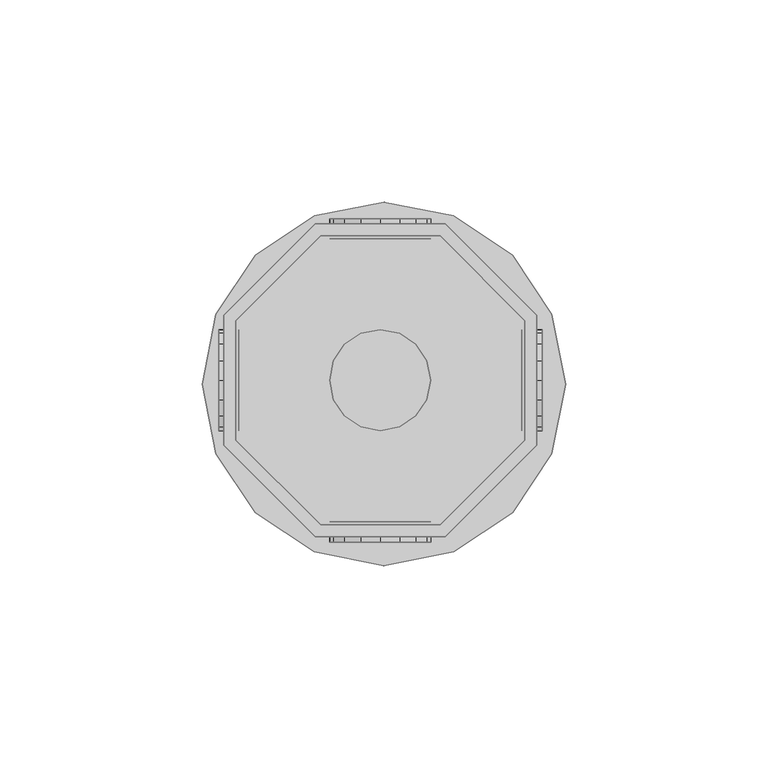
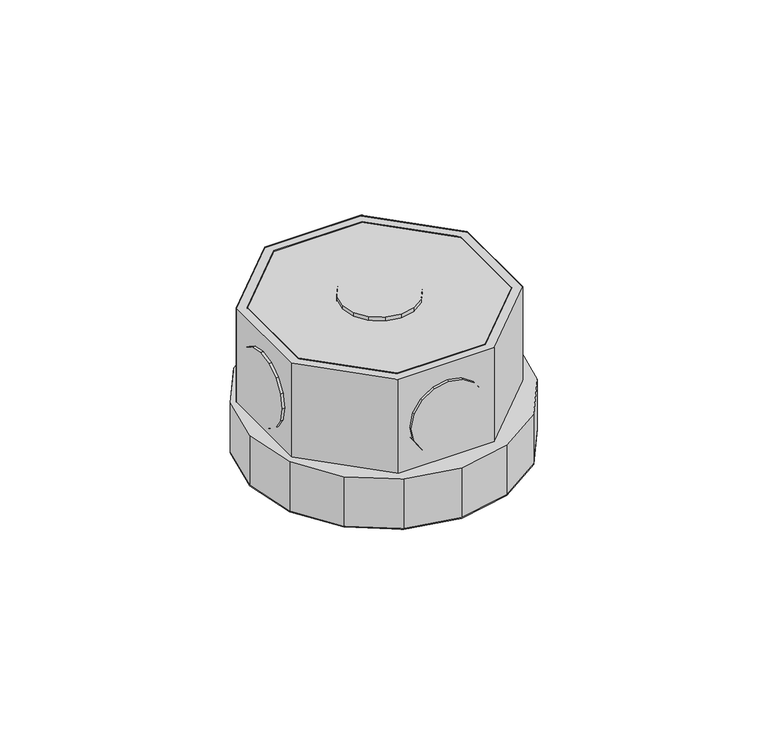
"""IFC4 building model written with IfcOpenShell, lengths in millimetres: light fixture geometry,  213616 :  213616."""

from ifc_helpers import new_model, si_unit, origin, place, context, project, spatial, triangles, source, transform, mapped, element, save


def light_fixture_a6753543(model_context):
    return source(origin(), model_context, "Body", "Tessellation", [
        triangles([(5265.0001419, 17662.9997772, 2924.5999741), (5235.4002045, 17662.9997772, 2975.400071), (5235.4002045, 17662.9997772, 2924.5999741), (5265.0001419, 17662.9997772, 2975.400071), (5266.2000687, 17588.4996735, 2924.5999741), (5234.1002838, 17588.4996735, 2975.400071), (5234.1002838, 17588.4996735, 2924.5999741), (5266.2000687, 17588.4996735, 2975.400071), (5214.3997421, 17641.9998962, 2975.400071), (5214.3997421, 17641.9998962, 2924.5999741), (5288.8998459, 17611.1994507, 2924.5999741), (5288.8998459, 17611.1994507, 2975.400071), (5214.3997421, 17612.4005402, 2975.400071), (5214.3997421, 17612.4005402, 2924.5999741), (5288.8998459, 17643.2998169, 2924.5999741), (5288.8998459, 17643.2998169, 2975.400071), (5235.4002045, 17591.4994904, 2975.400071), (5235.4002045, 17591.4994904, 2924.5999741), (5266.2000687, 17665.9995941, 2924.5999741), (5266.2000687, 17665.9995941, 2975.400071), (5265.0001419, 17591.4994904, 2924.5999741), (5265.0001419, 17591.4994904, 2975.400071), (5234.1002838, 17665.9995941, 2975.400071), (5234.1002838, 17665.9995941, 2924.5999741), (5285.900029, 17612.4005402, 2924.5999741), (5285.900029, 17612.4005402, 2975.400071), (5211.3999252, 17643.2998169, 2975.400071), (5211.3999252, 17643.2998169, 2924.5999741), (5211.3999252, 17611.1994507, 2975.400071), (5285.900029, 17641.9998962, 2975.400071), (5285.900029, 17641.9998962, 2924.5999741), (5211.3999252, 17611.1994507, 2924.5999741), (5214.3997421, 17612.4005402, 2972.3999634), (5235.4002045, 17591.4994904, 2972.3999634), (5265.0001419, 17591.4994904, 2972.3999634), (5285.900029, 17612.4005402, 2972.3999634), (5285.900029, 17641.9998962, 2972.3999634), (5265.0001419, 17662.9997772, 2972.3999634), (5235.4002045, 17662.9997772, 2972.3999634), (5214.3997421, 17641.9998962, 2972.3999634), (5211.3999252, 17643.2998169, 2942.4000504), (5234.1002838, 17665.9995941, 2942.4000504), (5266.2000687, 17665.9995941, 2942.4000504), (5288.8998459, 17643.2998169, 2942.4000504), (5288.8998459, 17611.1994507, 2942.4000504), (5266.2000687, 17588.4996735, 2942.4000504), (5234.1002838, 17588.4996735, 2942.4000504), (5211.3999252, 17611.1994507, 2942.4000504), (5233.7997208, 17584.7998993, 2942.4000504), (5209.5000412, 17609.0995789, 2942.4000504), (5219.2000305, 17594.50047, 2942.4000504), (5206.1002487, 17626.2996918, 2942.4000504), (5209.5000412, 17643.5997986, 2942.4000504), (5219.2000305, 17658.2000702, 2942.4000504), (5233.7997208, 17667.8994781, 2942.4000504), (5251.0998276, 17671.3004333, 2942.4000504), (5268.2999405, 17667.8994781, 2942.4000504), (5292.6002014, 17643.5997986, 2942.4000504), (5282.9002121, 17658.2000702, 2942.4000504), (5251.0998276, 17581.3001129, 2942.4000504), (5268.2999405, 17584.7998993, 2942.4000504), (5282.9002121, 17594.50047, 2942.4000504), (5292.6002014, 17609.0995789, 2942.4000504), (5296.0999878, 17626.2996918, 2942.4000504), (5209.5000412, 17609.0995789, 2924.5999741), (5233.7997208, 17584.7998993, 2924.5999741), (5219.2000305, 17594.50047, 2924.5999741), (5206.1002487, 17626.2996918, 2924.5999741), (5209.5000412, 17643.5997986, 2924.5999741), (5219.2000305, 17658.2000702, 2924.5999741), (5233.7997208, 17667.8994781, 2924.5999741), (5251.0998276, 17671.3004333, 2924.5999741), (5268.2999405, 17667.8994781, 2924.5999741), (5292.6002014, 17643.5997986, 2924.5999741), (5282.9002121, 17658.2000702, 2924.5999741), (5251.0998276, 17581.3001129, 2924.5999741), (5268.2999405, 17584.7998993, 2924.5999741), (5282.9002121, 17594.50047, 2924.5999741), (5292.6002014, 17609.0995789, 2924.5999741), (5296.0999878, 17626.2996918, 2924.5999741), (5238.6000092, 17667.1995209, 2952.6000092), (5245.4001755, 17667.1995209, 2945.9001274), (5241.2998444, 17667.1995209, 2948.5999626), (5237.7000641, 17667.1995209, 2957.4000069), (5250.1998825, 17667.1995209, 2944.8998978), (5238.6000092, 17667.1995209, 2962.2000046), (5255.0001709, 17667.1995209, 2945.9001274), (5241.2998444, 17667.1995209, 2966.2000511), (5258.9999268, 17667.1995209, 2948.5999626), (5245.4001755, 17667.1995209, 2968.8998863), (5261.699762, 17667.1995209, 2952.6000092), (5250.1998825, 17667.1995209, 2969.900116), (5262.7002823, 17667.1995209, 2957.4000069), (5255.0001709, 17667.1995209, 2968.8998863), (5261.699762, 17667.1995209, 2962.2000046), (5258.9999268, 17667.1995209, 2966.2000511), (5245.4001755, 17662.199826, 2945.9001274), (5238.6000092, 17662.199826, 2952.6000092), (5241.2998444, 17662.199826, 2948.5999626), (5250.1998825, 17662.199826, 2944.8998978), (5237.7000641, 17662.199826, 2957.4000069), (5255.0001709, 17662.199826, 2945.9001274), (5238.6000092, 17662.199826, 2962.2000046), (5258.9999268, 17662.199826, 2948.5999626), (5241.2998444, 17662.199826, 2966.2000511), (5245.4001755, 17662.199826, 2968.8998863), (5261.699762, 17662.199826, 2952.6000092), (5250.1998825, 17662.199826, 2969.900116), (5262.7002823, 17662.199826, 2957.4000069), (5255.0001709, 17662.199826, 2968.8998863), (5261.699762, 17662.199826, 2962.2000046), (5258.9999268, 17662.199826, 2966.2000511), (5238.6000092, 17592.1994476, 2952.6000092), (5245.4001755, 17592.1994476, 2945.9001274), (5241.2998444, 17592.1994476, 2948.5999626), (5237.7000641, 17592.1994476, 2957.4000069), (5250.1998825, 17592.1994476, 2944.8998978), (5238.6000092, 17592.1994476, 2962.2000046), (5255.0001709, 17592.1994476, 2945.9001274), (5241.2998444, 17592.1994476, 2966.2000511), (5258.9999268, 17592.1994476, 2948.5999626), (5245.4001755, 17592.1994476, 2968.8998863), (5261.699762, 17592.1994476, 2952.6000092), (5250.1998825, 17592.1994476, 2969.900116), (5262.7002823, 17592.1994476, 2957.4000069), (5255.0001709, 17592.1994476, 2968.8998863), (5261.699762, 17592.1994476, 2962.2000046), (5258.9999268, 17592.1994476, 2966.2000511), (5245.4001755, 17587.1997528, 2945.9001274), (5238.6000092, 17587.1997528, 2952.6000092), (5241.2998444, 17587.1997528, 2948.5999626), (5250.1998825, 17587.1997528, 2944.8998978), (5237.7000641, 17587.1997528, 2957.4000069), (5255.0001709, 17587.1997528, 2945.9001274), (5238.6000092, 17587.1997528, 2962.2000046), (5258.9999268, 17587.1997528, 2948.5999626), (5241.2998444, 17587.1997528, 2966.2000511), (5245.4001755, 17587.1997528, 2968.8998863), (5261.699762, 17587.1997528, 2952.6000092), (5250.1998825, 17587.1997528, 2969.900116), (5262.7002823, 17587.1997528, 2957.4000069), (5255.0001709, 17587.1997528, 2968.8998863), (5261.699762, 17587.1997528, 2962.2000046), (5258.9999268, 17587.1997528, 2966.2000511), (5215.2002747, 17622.3999298, 2945.9001274), (5215.2002747, 17615.7003387, 2952.6000092), (5215.2002747, 17618.400174, 2948.5999626), (5215.2002747, 17627.1996368, 2944.8998978), (5215.2002747, 17614.7003998, 2957.4000069), (5215.2002747, 17632.0005066, 2945.9001274), (5215.2002747, 17615.7003387, 2962.2000046), (5215.2002747, 17636.1002563, 2948.5999626), (5215.2002747, 17618.400174, 2966.2000511), (5215.2002747, 17622.3999298, 2968.8998863), (5215.2002747, 17638.8000916, 2952.6000092), (5215.2002747, 17627.1996368, 2969.900116), (5215.2002747, 17639.7000366, 2957.4000069), (5215.2002747, 17632.0005066, 2968.8998863), (5215.2002747, 17638.8000916, 2962.2000046), (5215.2002747, 17636.1002563, 2966.2000511), (5210.1999985, 17615.7003387, 2952.6000092), (5210.1999985, 17622.3999298, 2945.9001274), (5210.1999985, 17618.400174, 2948.5999626), (5210.1999985, 17614.7003998, 2957.4000069), (5210.1999985, 17627.1996368, 2944.8998978), (5210.1999985, 17615.7003387, 2962.2000046), (5210.1999985, 17632.0005066, 2945.9001274), (5210.1999985, 17618.400174, 2966.2000511), (5210.1999985, 17636.1002563, 2948.5999626), (5210.1999985, 17622.3999298, 2968.8998863), (5210.1999985, 17638.8000916, 2952.6000092), (5210.1999985, 17627.1996368, 2969.900116), (5210.1999985, 17639.7000366, 2957.4000069), (5210.1999985, 17632.0005066, 2968.8998863), (5210.1999985, 17638.8000916, 2962.2000046), (5210.1999985, 17636.1002563, 2966.2000511), (5290.1997665, 17622.3999298, 2945.9001274), (5290.1997665, 17615.7003387, 2952.6000092), (5290.1997665, 17618.400174, 2948.5999626), (5290.1997665, 17627.1996368, 2944.8998978), (5290.1997665, 17614.7003998, 2957.4000069), (5290.1997665, 17632.0005066, 2945.9001274), (5290.1997665, 17615.7003387, 2962.2000046), (5290.1997665, 17636.1002563, 2948.5999626), (5290.1997665, 17618.400174, 2966.2000511), (5290.1997665, 17622.3999298, 2968.8998863), (5290.1997665, 17638.8000916, 2952.6000092), (5290.1997665, 17627.1996368, 2969.900116), (5290.1997665, 17639.7000366, 2957.4000069), (5290.1997665, 17632.0005066, 2968.8998863), (5290.1997665, 17638.8000916, 2962.2000046), (5290.1997665, 17636.1002563, 2966.2000511), (5285.2000717, 17615.7003387, 2952.6000092), (5285.2000717, 17622.3999298, 2945.9001274), (5285.2000717, 17618.400174, 2948.5999626), (5285.2000717, 17614.7003998, 2957.4000069), (5285.2000717, 17627.1996368, 2944.8998978), (5285.2000717, 17615.7003387, 2962.2000046), (5285.2000717, 17632.0005066, 2945.9001274), (5285.2000717, 17618.400174, 2966.2000511), (5285.2000717, 17636.1002563, 2948.5999626), (5285.2000717, 17622.3999298, 2968.8998863), (5285.2000717, 17638.8000916, 2952.6000092), (5285.2000717, 17627.1996368, 2969.900116), (5285.2000717, 17639.7000366, 2957.4000069), (5285.2000717, 17632.0005066, 2968.8998863), (5285.2000717, 17638.8000916, 2962.2000046), (5285.2000717, 17636.1002563, 2966.2000511), (5245.4001755, 17615.7003387, 2976.9999733), (5238.6000092, 17622.3999298, 2976.9999733), (5241.2998444, 17618.400174, 2976.9999733), (5237.7000641, 17627.1996368, 2976.9999733), (5250.1998825, 17614.7003998, 2976.9999733), (5238.6000092, 17632.0005066, 2976.9999733), (5255.0001709, 17615.7003387, 2976.9999733), (5241.2998444, 17636.1002563, 2976.9999733), (5258.9999268, 17618.400174, 2976.9999733), (5245.4001755, 17638.8000916, 2976.9999733), (5261.699762, 17622.3999298, 2976.9999733), (5250.1998825, 17639.7000366, 2976.9999733), (5262.7002823, 17627.1996368, 2976.9999733), (5255.0001709, 17638.8000916, 2976.9999733), (5261.699762, 17632.0005066, 2976.9999733), (5258.9999268, 17636.1002563, 2976.9999733), (5238.6000092, 17622.3999298, 2971.9999878), (5245.4001755, 17615.7003387, 2971.9999878), (5241.2998444, 17618.400174, 2971.9999878), (5237.7000641, 17627.1996368, 2971.9999878), (5250.1998825, 17614.7003998, 2971.9999878), (5238.6000092, 17632.0005066, 2971.9999878), (5255.0001709, 17615.7003387, 2971.9999878), (5241.2998444, 17636.1002563, 2971.9999878), (5258.9999268, 17618.400174, 2971.9999878), (5245.4001755, 17638.8000916, 2971.9999878), (5261.699762, 17622.3999298, 2971.9999878), (5250.1998825, 17639.7000366, 2971.9999878), (5262.7002823, 17627.1996368, 2971.9999878), (5255.0001709, 17638.8000916, 2971.9999878), (5261.699762, 17632.0005066, 2971.9999878), (5258.9999268, 17636.1002563, 2971.9999878)], [[1, 2, 3], [2, 1, 4], [5, 6, 7], [6, 5, 8], [3, 9, 10], [9, 3, 2], [11, 8, 5], [8, 11, 12], [10, 13, 14], [13, 10, 9], [15, 12, 11], [12, 15, 16], [14, 17, 18], [17, 14, 13], [19, 16, 15], [16, 19, 20], [17, 21, 18], [21, 17, 22], [23, 19, 24], [19, 23, 20], [22, 25, 21], [25, 22, 26], [27, 24, 28], [24, 27, 23], [6, 13, 29], [29, 13, 27], [27, 13, 9], [27, 9, 23], [23, 9, 2], [23, 2, 4], [23, 4, 20], [20, 4, 30], [8, 17, 6], [6, 17, 13], [17, 8, 22], [12, 22, 8], [22, 12, 26], [30, 26, 12], [16, 30, 12], [20, 30, 16], [30, 1, 31], [1, 30, 4], [6, 32, 7], [32, 6, 29], [32, 14, 7], [28, 14, 32], [14, 28, 10], [24, 10, 28], [10, 24, 3], [1, 3, 24], [19, 1, 24], [31, 1, 19], [7, 18, 5], [14, 18, 7], [5, 18, 21], [5, 21, 11], [11, 21, 25], [11, 25, 31], [11, 31, 15], [15, 31, 19], [26, 31, 25], [31, 26, 30], [29, 28, 32], [28, 29, 27], [17, 33, 34], [33, 17, 13], [35, 17, 34], [17, 35, 22], [36, 22, 35], [22, 36, 26], [37, 26, 36], [26, 37, 30], [38, 30, 37], [30, 38, 4], [2, 38, 39], [38, 2, 4], [17, 9, 13], [9, 17, 22], [9, 22, 2], [2, 22, 26], [2, 26, 4], [4, 26, 30], [13, 40, 33], [40, 13, 9], [40, 34, 33], [35, 34, 40], [35, 40, 39], [35, 39, 36], [36, 39, 38], [36, 38, 37], [9, 39, 40], [39, 9, 2], [24, 41, 28], [41, 24, 42], [19, 42, 24], [42, 19, 43], [44, 19, 15], [19, 44, 43], [45, 15, 11], [15, 45, 44], [46, 11, 5], [11, 46, 45], [47, 5, 7], [5, 47, 46], [32, 47, 7], [47, 32, 48], [28, 48, 32], [48, 28, 41], [49, 50, 51], [48, 50, 49], [50, 48, 52], [41, 52, 48], [52, 41, 53], [53, 41, 54], [42, 54, 41], [54, 42, 55], [55, 42, 43], [55, 43, 56], [56, 43, 57], [57, 43, 44], [57, 44, 58], [57, 58, 59], [47, 49, 60], [49, 47, 48], [47, 60, 46], [61, 46, 60], [46, 61, 62], [46, 62, 45], [45, 62, 63], [44, 45, 63], [44, 63, 64], [44, 64, 58], [65, 66, 67], [66, 65, 32], [68, 32, 65], [32, 68, 28], [28, 68, 69], [70, 28, 69], [28, 70, 24], [71, 24, 70], [19, 24, 71], [19, 71, 72], [73, 19, 72], [19, 73, 15], [74, 15, 73], [74, 73, 75], [76, 66, 7], [32, 7, 66], [5, 76, 7], [76, 5, 77], [77, 5, 78], [11, 78, 5], [78, 11, 79], [79, 11, 15], [79, 15, 80], [80, 15, 74], [57, 75, 73], [75, 57, 59], [56, 73, 72], [73, 56, 57], [55, 72, 71], [72, 55, 56], [54, 71, 70], [71, 54, 55], [53, 70, 69], [70, 53, 54], [52, 69, 68], [69, 52, 53], [50, 68, 65], [68, 50, 52], [51, 65, 67], [65, 51, 50], [66, 51, 67], [51, 66, 49], [76, 49, 66], [49, 76, 60], [77, 60, 76], [60, 77, 61], [78, 61, 77], [61, 78, 62], [79, 62, 78], [62, 79, 63], [80, 63, 79], [63, 80, 64], [75, 58, 74], [58, 75, 59], [74, 64, 80], [64, 74, 58], [81, 82, 83], [82, 81, 84], [85, 82, 84], [85, 84, 86], [87, 85, 86], [87, 86, 88], [87, 88, 89], [89, 88, 90], [89, 90, 91], [91, 90, 92], [91, 92, 93], [93, 92, 94], [93, 94, 95], [95, 94, 96], [97, 98, 99], [98, 97, 100], [101, 98, 100], [101, 100, 102], [103, 101, 102], [103, 102, 104], [103, 104, 105], [105, 104, 106], [106, 104, 107], [106, 107, 108], [108, 107, 109], [108, 109, 110], [110, 109, 111], [110, 111, 112], [87, 104, 102], [104, 87, 89], [85, 102, 100], [102, 85, 87], [82, 100, 97], [100, 82, 85], [83, 97, 99], [97, 83, 82], [98, 83, 99], [83, 98, 81], [101, 81, 98], [81, 101, 84], [103, 84, 101], [84, 103, 86], [105, 86, 103], [86, 105, 88], [106, 88, 105], [88, 106, 90], [108, 90, 106], [90, 108, 92], [110, 92, 108], [92, 110, 94], [112, 94, 110], [94, 112, 96], [95, 112, 111], [112, 95, 96], [93, 111, 109], [111, 93, 95], [89, 107, 104], [107, 89, 91], [91, 109, 107], [109, 91, 93], [113, 114, 115], [114, 113, 116], [117, 114, 116], [117, 116, 118], [119, 117, 118], [119, 118, 120], [119, 120, 121], [121, 120, 122], [121, 122, 123], [123, 122, 124], [123, 124, 125], [125, 124, 126], [125, 126, 127], [127, 126, 128], [129, 130, 131], [130, 129, 132], [133, 130, 132], [133, 132, 134], [135, 133, 134], [135, 134, 136], [135, 136, 137], [137, 136, 138], [138, 136, 139], [138, 139, 140], [140, 139, 141], [140, 141, 142], [142, 141, 143], [142, 143, 144], [119, 136, 134], [136, 119, 121], [117, 134, 132], [134, 117, 119], [114, 132, 129], [132, 114, 117], [115, 129, 131], [129, 115, 114], [130, 115, 131], [115, 130, 113], [133, 113, 130], [113, 133, 116], [135, 116, 133], [116, 135, 118], [137, 118, 135], [118, 137, 120], [138, 120, 137], [120, 138, 122], [140, 122, 138], [122, 140, 124], [142, 124, 140], [124, 142, 126], [144, 126, 142], [126, 144, 128], [127, 144, 143], [144, 127, 128], [125, 143, 141], [143, 125, 127], [121, 139, 136], [139, 121, 123], [123, 141, 139], [141, 123, 125], [145, 146, 147], [146, 145, 148], [149, 146, 148], [149, 148, 150], [151, 149, 150], [151, 150, 152], [151, 152, 153], [153, 152, 154], [154, 152, 155], [154, 155, 156], [156, 155, 157], [156, 157, 158], [158, 157, 159], [158, 159, 160], [161, 162, 163], [162, 161, 164], [165, 162, 164], [165, 164, 166], [167, 165, 166], [167, 166, 168], [169, 167, 168], [169, 168, 170], [169, 170, 171], [171, 170, 172], [171, 172, 173], [173, 172, 174], [173, 174, 175], [175, 174, 176], [158, 176, 174], [176, 158, 160], [156, 174, 172], [174, 156, 158], [154, 172, 170], [172, 154, 156], [153, 170, 168], [170, 153, 154], [151, 168, 166], [168, 151, 153], [149, 166, 164], [166, 149, 151], [146, 164, 161], [164, 146, 149], [147, 161, 163], [161, 147, 146], [162, 147, 163], [147, 162, 145], [165, 145, 162], [145, 165, 148], [167, 148, 165], [148, 167, 150], [169, 150, 167], [150, 169, 152], [171, 152, 169], [152, 171, 155], [173, 155, 171], [155, 173, 157], [176, 159, 175], [159, 176, 160], [175, 157, 173], [157, 175, 159], [177, 178, 179], [178, 177, 180], [181, 178, 180], [181, 180, 182], [183, 181, 182], [183, 182, 184], [183, 184, 185], [185, 184, 186], [186, 184, 187], [186, 187, 188], [188, 187, 189], [188, 189, 190], [190, 189, 191], [190, 191, 192], [193, 194, 195], [194, 193, 196], [197, 194, 196], [197, 196, 198], [199, 197, 198], [199, 198, 200], [201, 199, 200], [201, 200, 202], [201, 202, 203], [203, 202, 204], [203, 204, 205], [205, 204, 206], [205, 206, 207], [207, 206, 208], [190, 208, 206], [208, 190, 192], [188, 206, 204], [206, 188, 190], [186, 204, 202], [204, 186, 188], [185, 202, 200], [202, 185, 186], [183, 200, 198], [200, 183, 185], [181, 198, 196], [198, 181, 183], [178, 196, 193], [196, 178, 181], [179, 193, 195], [193, 179, 178], [194, 179, 195], [179, 194, 177], [197, 177, 194], [177, 197, 180], [199, 180, 197], [180, 199, 182], [201, 182, 199], [182, 201, 184], [203, 184, 201], [184, 203, 187], [205, 187, 203], [187, 205, 189], [208, 191, 207], [191, 208, 192], [207, 189, 205], [189, 207, 191], [209, 210, 211], [212, 210, 209], [212, 209, 213], [214, 212, 213], [214, 213, 215], [216, 214, 215], [216, 215, 217], [216, 217, 218], [218, 217, 219], [218, 219, 220], [220, 219, 221], [220, 221, 222], [222, 221, 223], [222, 223, 224], [225, 226, 227], [226, 225, 228], [229, 226, 228], [229, 228, 230], [231, 229, 230], [231, 230, 232], [231, 232, 233], [233, 232, 234], [233, 234, 235], [235, 234, 236], [235, 236, 237], [237, 236, 238], [237, 238, 239], [239, 238, 240], [222, 240, 238], [240, 222, 224], [220, 238, 236], [238, 220, 222], [218, 236, 234], [236, 218, 220], [216, 234, 232], [234, 216, 218], [214, 232, 230], [232, 214, 216], [212, 230, 228], [230, 212, 214], [210, 228, 225], [228, 210, 212], [211, 225, 227], [225, 211, 210], [226, 211, 227], [211, 226, 209], [229, 209, 226], [209, 229, 213], [231, 213, 229], [213, 231, 215], [233, 215, 231], [215, 233, 217], [235, 217, 233], [217, 235, 219], [237, 219, 235], [219, 237, 221], [240, 223, 239], [223, 240, 224], [239, 221, 237], [221, 239, 223]], closed=False),
    ])


if __name__ == "__main__":
    model = new_model("IFC4")
    model_context = context("Model", 3, world=origin())
    ifc_project = project(units=[si_unit("LENGTHUNIT", "METRE", prefix="MILLI")], contexts=[model_context])
    site = spatial("IfcSite", under=ifc_project)
    building = spatial("IfcBuilding", under=site)
    placement = place(None, origin())
    light_fixture_shape = light_fixture_a6753543(model_context)
    element("IfcLightFixture", 1, ObjectType=" 213616 :  213616", at=placement, inside=building, context=model_context, shape_type="MappedRepresentation", body=[
        mapped(light_fixture_shape, transform((0.0, 0.0, 0.0), x_axis=(1.0, 0.0, 0.0), y_axis=(0.0, 1.0, 0.0), z_axis=(0.0, 0.0, 1.0))),
    ])
    save(model, "model.ifc")
